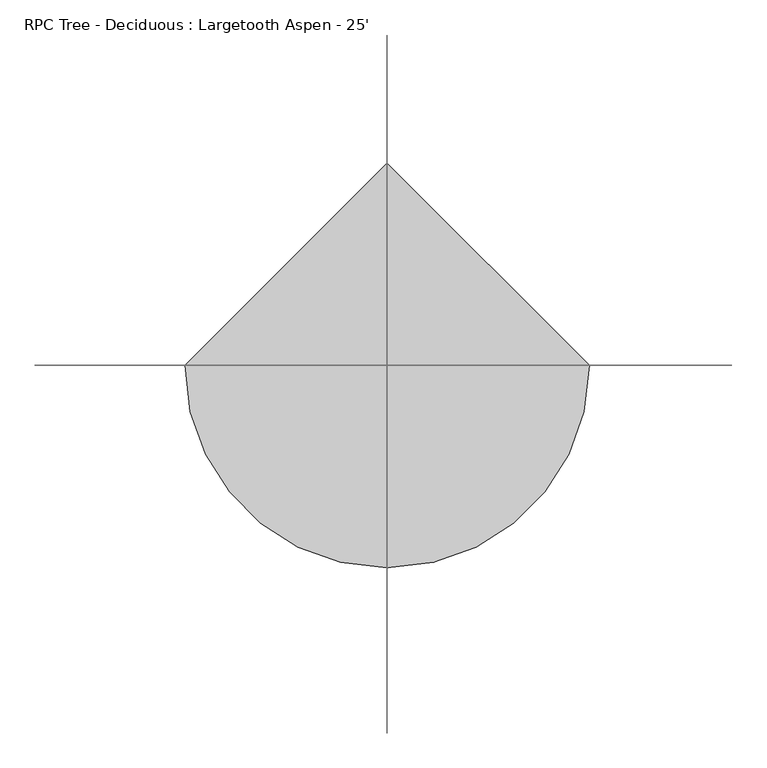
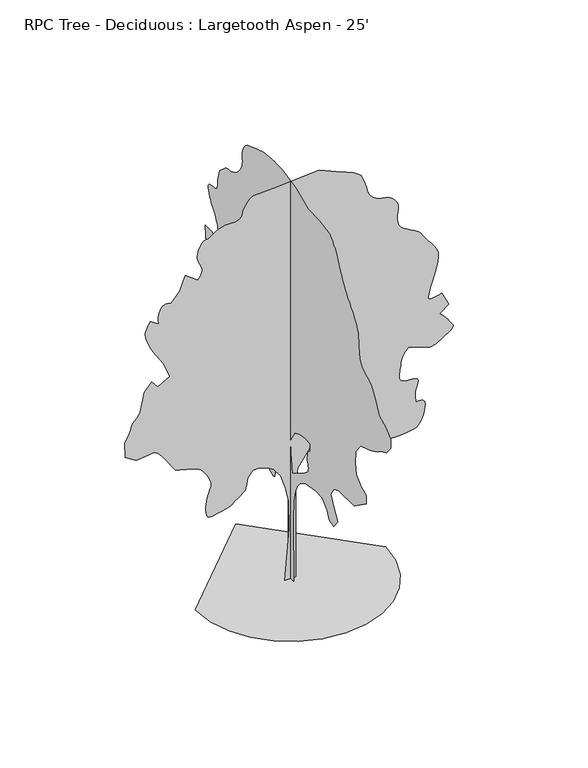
"""IFC4 building model written with IfcOpenShell, lengths in millimetres: geographic element geometry, RPC Tree - Deciduous : Largetooth Aspen - 25'."""

import ifcopenshell
import ifcopenshell.guid

model = None  # the IFC model being written
_history = None  # IfcOwnerHistory: only IFC2X3 demands one
_inside = {}  # id of a spatial element -> (the spatial element, [elements in it])
_under = {}  # id of a project, library or spatial element -> (it, [spatial elements below it])
_declared = {}  # id of a project -> (the project, [libraries it declares])
_typed = {}  # id of a type object -> (the type object, [elements of that type])
_made_of = {}  # id of a material, layer set ... -> (it, [elements and type objects made of it])


def new_model(schema):
    """Start an empty IFC model of exactly this schema.

    Asked for "IFC4X3", IfcOpenShell would pick the latest addendum, in which some entities
    have other attributes; the version numbers below select the first issue.
    IFC2X3 requires an IfcOwnerHistory on every rooted entity: one is made here for all.
    """
    global model, _history
    if schema == "IFC4X3":
        model = ifcopenshell.file(schema_version=(4, 3, 0, 0))
    else:
        model = ifcopenshell.file(schema=schema)
    _inside.clear()
    _under.clear()
    _declared.clear()
    _typed.clear()
    _made_of.clear()
    _history = None
    if model.schema == "IFC2X3":
        org = make("IfcOrganization", Name="unknown")
        user = make(
            "IfcPersonAndOrganization",
            ThePerson=make("IfcPerson", FamilyName="unknown"),
            TheOrganization=org,
        )
        app = make(
            "IfcApplication",
            ApplicationDeveloper=org,
            Version="unknown",
            ApplicationFullName="unknown",
            ApplicationIdentifier="unknown",
        )
        _history = make(
            "IfcOwnerHistory",
            OwningUser=user,
            OwningApplication=app,
            ChangeAction="ADDED",
            CreationDate=0,
        )
    return model


def make(cls, **values):
    """One entity of the class cls with the attributes given. An attribute that is None is left unset."""
    return model.create_entity(
        cls, **{name: value for name, value in values.items() if value is not None}
    )


def rooted(cls, **values):
    """An entity with a GlobalId (a new one), such as an element, a storey or a relation."""
    return make(cls, GlobalId=ifcopenshell.guid.new(), OwnerHistory=_history, **values)


def si_unit(unit_type, name, prefix=None):
    """IfcSIUnit, for example si_unit("LENGTHUNIT", "METRE", prefix="MILLI")."""
    return make("IfcSIUnit", UnitType=unit_type, Prefix=prefix, Name=name)


def assignment(units):
    """IfcUnitAssignment: the units of a project."""
    return None if units is None else make("IfcUnitAssignment", Units=units)


def point(xyz):
    """IfcCartesianPoint."""
    return None if xyz is None else make("IfcCartesianPoint", Coordinates=xyz)


def direction(xyz):
    """IfcDirection."""
    return None if xyz is None else make("IfcDirection", DirectionRatios=xyz)


def frame(location, z_axis=None, x_axis=None):
    """IfcAxis2Placement3D, a coordinate frame: its origin and axes. An axis left out is left unset."""
    return make(
        "IfcAxis2Placement3D",
        Location=point(location),
        Axis=direction(z_axis),
        RefDirection=direction(x_axis),
    )


def origin():
    """The frame at (0, 0, 0) with its axes left unset."""
    return frame((0.0, 0.0, 0.0))


def place(relative_to, where):
    """IfcLocalPlacement: puts the frame where relative to a parent placement (None: the world)."""
    return make(
        "IfcLocalPlacement", PlacementRelTo=relative_to, RelativePlacement=where
    )


def context(
    kind, dimensions, precision=None, world=None, true_north=None, identifier=None
):
    """IfcGeometricRepresentationContext, for example the 3D "Model" context."""
    return make(
        "IfcGeometricRepresentationContext",
        ContextIdentifier=identifier,
        ContextType=kind,
        CoordinateSpaceDimension=dimensions,
        Precision=precision,
        WorldCoordinateSystem=world,
        TrueNorth=true_north,
    )


def project(units=None, contexts=None):
    """IfcProject with its units and contexts."""
    return rooted(
        "IfcProject",
        Name="project",
        RepresentationContexts=contexts,
        UnitsInContext=assignment(units),
    )


def spatial(cls, under=None, at=None, **own):
    """A site, building, storey or space (cls), placed at a placement, below another one or the project."""
    s = rooted(cls, ObjectPlacement=at, **own)
    if under is not None:
        _under.setdefault(under.id(), (under, []))[1].append(s)
    return s


def point_list(points):
    """IfcCartesianPointList2D or 3D."""
    cls = (
        "IfcCartesianPointList2D" if len(points[0]) == 2 else "IfcCartesianPointList3D"
    )
    return make(cls, CoordList=points)


def triangles(points, corners, closed=None, point_numbers=None):
    """IfcTriangulatedFaceSet: each triangle names its three corners, points numbered from 1."""
    return make(
        "IfcTriangulatedFaceSet",
        Coordinates=point_list(points),
        Closed=closed,
        CoordIndex=corners,
        PnIndex=point_numbers,
    )


def shape(context_of_items, identifier, shape_type, items):
    """IfcShapeRepresentation: the items that make up one representation, for example the "Body"."""
    return make(
        "IfcShapeRepresentation",
        ContextOfItems=context_of_items,
        RepresentationIdentifier=identifier,
        RepresentationType=shape_type,
        Items=items,
    )


def source(mapping_origin, context_of_items, identifier, shape_type, items):
    """IfcRepresentationMap: a shape defined once, which mapped items show again and again."""
    return make(
        "IfcRepresentationMap",
        MappingOrigin=mapping_origin,
        MappedRepresentation=shape(context_of_items, identifier, shape_type, items),
    )


def transform(
    local_origin,
    x_axis=None,
    y_axis=None,
    z_axis=None,
    scale=None,
    scale2=None,
    scale3=None,
    uniform=True,
):
    """IfcCartesianTransformationOperator3D, or its non-uniform kind. x_axis, y_axis, z_axis: its Axis1, 2, 3."""
    if uniform:
        return make(
            "IfcCartesianTransformationOperator3D",
            Axis1=direction(x_axis),
            Axis2=direction(y_axis),
            LocalOrigin=point(local_origin),
            Scale=scale,
            Axis3=direction(z_axis),
        )
    return make(
        "IfcCartesianTransformationOperator3DnonUniform",
        Axis1=direction(x_axis),
        Axis2=direction(y_axis),
        LocalOrigin=point(local_origin),
        Scale=scale,
        Axis3=direction(z_axis),
        Scale2=scale2,
        Scale3=scale3,
    )


def mapped(mapping_source, mapping_target):
    """IfcMappedItem: shows the shape of a source again, moved by a transform."""
    return make(
        "IfcMappedItem", MappingSource=mapping_source, MappingTarget=mapping_target
    )


def made_of(thing, what):
    """Note that an element or type object is made of a material, layer set ...; save() writes the relation."""
    if what is not None:
        _made_of.setdefault(what.id(), (what, []))[1].append(thing)
    return thing


def element(
    cls,
    number,
    at=None,
    inside=None,
    cuts=None,
    type_object=None,
    material=None,
    context=None,
    identifier="Body",
    shape_type=None,
    held_by="IfcProductDefinitionShape",
    body=None,
    shapes=None,
    **own,
):
    """One element of the class cls, such as IfcWall. Its Tag is "e" and its number.

    at: its placement. inside: the storey or other place that contains it. cuts: it is an
    opening in that element (IfcRelVoidsElement). A single representation is given by context,
    identifier, shape_type and body (its items); several are given by shapes. held_by: the class
    of the entity that holds the representations. save() writes the other relations.
    """
    e = rooted(cls, Tag="e%d" % number, ObjectPlacement=at, **own)
    if body is not None:
        shapes = [shape(context, identifier, shape_type, body)]
    if shapes is not None:
        e.Representation = make(held_by, Representations=shapes)
    if inside is not None:
        _inside.setdefault(inside.id(), (inside, []))[1].append(e)
    if cuts is not None:
        rooted(
            "IfcRelVoidsElement", RelatingBuildingElement=cuts, RelatedOpeningElement=e
        )
    if type_object is not None:
        _typed.setdefault(type_object.id(), (type_object, []))[1].append(e)
    return made_of(e, material)


def aggregate(whole, parts):
    """IfcRelAggregates: a whole, such as a stair, and the parts it consists of."""
    return rooted("IfcRelAggregates", RelatingObject=whole, RelatedObjects=parts)


def save(model, path):
    """Write the relations noted so far, then the file.

    IfcRelAggregates (storeys below a building ...), IfcRelContainedInSpatialStructure (elements
    in a storey), IfcRelDefinesByType, IfcRelAssociatesMaterial and IfcRelDeclares: one each for
    every whole, place, type object, material and project.
    """
    for whole, parts in _under.values():
        aggregate(whole, parts)
    for where, things in _inside.values():
        rooted(
            "IfcRelContainedInSpatialStructure",
            RelatedElements=things,
            RelatingStructure=where,
        )
    for kind, things in _typed.values():
        rooted("IfcRelDefinesByType", RelatedObjects=things, RelatingType=kind)
    for what, things in _made_of.values():
        rooted("IfcRelAssociatesMaterial", RelatedObjects=things, RelatingMaterial=what)
    for by, libraries in _declared.values():
        rooted("IfcRelDeclares", RelatingContext=by, RelatedDefinitions=libraries)
    model.write(path)


def rpc_tree_deciduous_largetooth_aspen_25_f6cd7aa4(model_context):
    return source(origin(), model_context, "Body", "Tessellation", [
        triangles([(93.1061447, 0.000407, 0.0055275), (-104.1894253, 0.000407, 0.0055275), (-22.9504001, 0.0003503, 951.6658939), (-34.5559031, 0.0003185, 1485.5251682), (-92.5836657, 0.0003019, 1764.061219), (-173.8237105, 0.0002874, 2007.7790462), (-301.4849952, 0.000277, 2181.8628971), (-405.9347789, 0.0002735, 2239.8916225), (-568.4133425, 0.0002701, 2297.9204933), (-684.470866, 0.0002701, 2297.9204933), (-765.710166, 0.000277, 2181.8628971), (-800.5284622, 0.000286, 2030.9895481), (-803.4037228, 0.000287, 2013.4305908), (-808.6158319, 0.0002881, 1994.9546837), (-818.4938627, 0.0002893, 1974.6550507), (-835.3797506, 0.0002907, 1951.6121258), (-861.6001705, 0.0002923, 1924.9168076), (-899.4969126, 0.0002942, 1893.6518555), (-951.4017385, 0.0002963, 1856.9058426), (-1000.9367964, 0.0002984, 1821.7851665), (-1035.041328, 0.0003, 1794.7824543), (-1061.0280413, 0.0003013, 1774.0764507), (-1086.2019407, 0.0003023, 1757.8357269), (-1117.8706472, 0.0003031, 1744.2340862), (-1163.3467958, 0.0003038, 1731.4425705), (-1229.9353912, 0.0003046, 1717.6377445), (-1303.2575146, 0.0003056, 1701.9735844), (-1364.6008633, 0.0003064, 1687.5234489), (-1414.7786144, 0.000307, 1678.356712), (-1454.6032185, 0.000307, 1678.5242889), (-1484.8875618, 0.0003062, 1692.0929375), (-1506.439444, 0.0003043, 1723.119096), (-1520.076693, 0.0003012, 1775.66647), (-1526.0305447, 0.0002975, 1838.229221), (-1525.0830734, 0.000294, 1896.7304466), (-1518.8575813, 0.0002907, 1951.3759483), (-1508.9769344, 0.0002877, 2002.3662952), (-1497.0669056, 0.0002848, 2049.9049633), (-1484.7505062, 0.0002822, 2094.1948471), (-1473.6532185, 0.0002797, 2135.4418934), (-1462.0149754, 0.0002776, 2171.5098953), (-1448.7511047, 0.0002758, 2202.2997311), (-1436.5031605, 0.000274, 2231.0600395), (-1427.9079002, 0.0002723, 2261.0397503), (-1425.6065872, 0.0002702, 2295.4845955), (-1432.2385952, 0.0002677, 2337.6435047), (-1450.4427166, 0.0002645, 2390.7649715), (-1477.2752357, 0.0002611, 2448.2171333), (-1507.353923, 0.000258, 2500.7976448), (-1539.6676483, 0.0002552, 2547.8968048), (-1573.1981598, 0.0002527, 2588.9178474), (-1606.9320019, 0.0002507, 2623.2079056), (-1639.8528122, 0.0002491, 2650.2080017), (-1670.950042, 0.0002479, 2669.3088707), (-1706.2051575, 0.000247, 2684.2184258), (-1751.2088058, 0.0002461, 2699.1535606), (-1804.330418, 0.0002453, 2714.0634064), (-1863.9491627, 0.0002444, 2728.9985413), (-1928.439703, 0.0002435, 2743.908387), (-1996.1788822, 0.0002426, 2758.8182327), (-2065.5412182, 0.0002417, 2773.7533676), (-2262.8354256, 0.0002244, 3063.8972855), (-2307.8392193, 0.0002208, 3124.7302002), (-2344.3134464, 0.0002181, 3169.7390808), (-2373.6809853, 0.0002162, 3201.539756), (-2397.3664581, 0.0002149, 3222.7742157), (-2416.7872204, 0.0002141, 3236.1091576), (-2433.3683304, 0.0002137, 3244.1609917), (-2448.5269981, 0.0002133, 3249.5711266), (-2773.4740242, 0.0002154, 3214.7732506), (-2970.7811668, 0.0002078, 3342.4334816), (-2982.3888885, 0.0001919, 3609.3616653), (-2960.1129227, 0.0001895, 3649.1127274), (-2938.5738304, 0.0001872, 3688.6606041), (-2918.4317459, 0.0001848, 3727.8273994), (-2900.4229614, 0.0001825, 3766.3590591), (-2885.2846413, 0.0001803, 3804.0779778), (-2873.6769196, 0.0001781, 3840.78097), (-2866.3363792, 0.000176, 3876.2901398), (-2854.8809738, 0.000174, 3909.843615), (-2833.1131165, 0.0001721, 3941.5934212), (-2804.8174599, 0.0001702, 3972.5051971), (-2773.8803947, 0.0001684, 4003.6457382), (-2744.1877304, 0.0001665, 4035.9798111), (-2719.5499901, 0.0001644, 4070.5745018), (-2703.8526924, 0.0001621, 4108.3951584), (-2634.2060715, 0.0001414, 4456.5779755), (-2494.950618, 0.0001324, 4607.4283607), (-2390.4982727, 0.00014, 4479.7681297), (-2169.9909473, 0.0001331, 4595.8459282), (-2286.0485435, 0.0001158, 4885.9645569), (-2471.7375, 9.85e-05, 5176.1084747), (-2494.0692764, 9.6e-05, 5217.3577011), (-2519.6494011, 9.3e-05, 5268.7673538), (-2546.0425575, 8.96e-05, 5326.2475662), (-2570.8076157, 8.6e-05, 5385.7596313), (-2591.5086777, 8.26e-05, 5443.2398438), (-2605.7325188, 7.95e-05, 5494.6494965), (-2611.0159172, 7.71e-05, 5535.8993042), (-2608.2980598, 7.5e-05, 5570.3669678), (-2600.7287544, 7.3e-05, 5604.2503647), (-2589.0701637, 7.1e-05, 5637.6006546), (-2574.1858978, 6.9e-05, 5670.544574), (-2556.863118, 6.71e-05, 5703.2088593), (-2537.9197975, 6.52e-05, 5735.6446701), (-2518.1611198, 6.32e-05, 5768.0037415), (-2367.2877708, 6.95e-05, 5663.5595352), (-2372.0934368, 6.75e-05, 5695.9697662), (-2375.8831764, 6.56e-05, 5728.8881058), (-2377.6407726, 6.35e-05, 5762.8226624), (-2376.3555313, 6.14e-05, 5798.2809631), (-2371.00891, 5.92e-05, 5835.7711166), (-2360.5873077, 5.68e-05, 5875.8018127), (-2344.077269, 5.42e-05, 5918.8799973), (-2322.4899239, 5.2e-05, 5956.5480469), (-2297.8569798, 5.05e-05, 5981.4145523), (-2270.6865452, 4.97e-05, 5995.6131042), (-2241.4867287, 4.93e-05, 6001.3028732), (-2210.7630226, 4.94e-05, 6000.5918701), (-2179.0257156, 4.97e-05, 5995.6131042), (-2146.7804455, 5.01e-05, 5988.501329), (-1995.9070965, 3.97e-05, 6162.5924469), (-1891.4573673, 2.45e-05, 6417.9129089), (-1670.950042, 3.42e-05, 6255.4298035), (-1648.8215961, 3.24e-05, 6285.3250717), (-1628.2145691, 3.06e-05, 6315.3988174), (-1610.6529957, 2.88e-05, 6345.8789337), (-1597.6609108, 2.69e-05, 6376.9683151), (-1590.7597332, 2.5e-05, 6408.8960175), (-1591.4684109, 2.31e-05, 6441.814357), (-1601.3160656, 2.1e-05, 6475.9523895), (-1617.3536041, 1.89e-05, 6510.877002), (-1634.407069, 1.68e-05, 6546.3864624), (-1650.6477928, 1.46e-05, 6583.140033), (-1664.2495789, 1.23e-05, 6621.7225616), (-1673.3859398, 9.9e-06, 6662.7183151), (-1676.2282082, 7.3e-06, 6706.761557), (-1670.950042, 4.4e-06, 6754.488295), (-1658.2957272, 1.5e-06, 6803.2306686), (-1640.7672913, -1.2e-06, 6848.9505524), (-1619.1798008, -3.6e-06, 6889.9968842), (-1594.3462875, -5.7e-06, 6924.7441818), (-1567.0742603, -7.3e-06, 6951.5663818), (-1538.1767509, -8.4e-06, 6968.8641632), (-1508.471442, -8.7e-06, 6974.9853012), (-1475.2102455, -9.2e-06, 6983.3417679), (-1435.6574272, -1.05e-05, 7004.9067307), (-1390.6206413, -1.23e-05, 7034.3706299), (-1340.9153904, -1.42e-05, 7066.4762283), (-1287.3545609, -1.59e-05, 7095.9401276), (-1230.7481323, -1.72e-05, 7117.504509), (-1171.9065931, -1.77e-05, 7125.861557), (-1111.9499331, -1.77e-05, 7125.5313446), (-1053.2124573, -1.77e-05, 7125.9882935), (-998.3307781, -1.79e-05, 7129.5188919), (-949.9463768, -1.85e-05, 7138.307309), (-910.695793, -1.94e-05, 7154.6138718), (-883.2205805, -2.1e-05, 7180.6744904), (-870.1599678, -2.32e-05, 7218.6983322), (-859.1973375, -2.62e-05, 7267.6691803), (-837.8816328, -2.94e-05, 7321.8984283), (-808.6488241, -3.27e-05, 7376.76194), (-773.9321205, -3.57e-05, 7427.5367477), (-736.1725794, -3.82e-05, 7469.5992966), (-697.8033371, -3.99e-05, 7498.2504547), (-661.2603642, -4.05e-05, 7508.8422501), (-324.6980224, -4.19e-05, 7532.0576935), (510.9103117, -4.54e-05, 7590.0965927), (928.7119898, -3.43e-05, 7404.3974625), (997.9725878, -3.27e-05, 7376.9148376), (1065.003162, -3.1e-05, 7348.7462082), (1127.5632969, -2.92e-05, 7319.1294113), (1183.4279829, -2.73e-05, 7287.4051849), (1230.3570225, -2.53e-05, 7252.8102036), (1266.1201012, -2.3e-05, 7214.6852051), (1288.4873405, -2.05e-05, 7172.2924438), (1303.3743679, -1.8e-05, 7130.6618454), (1318.0580647, -1.58e-05, 7093.7303787), (1332.3378616, -1.37e-05, 7059.0086609), (1346.0081028, -1.16e-05, 7024.0834671), (1358.8656029, -9.4e-06, 6986.5171555), (1370.7070312, -6.9e-06, 6943.8959198), (1381.3319641, -3.9e-06, 6893.7565384), (1397.2017803, -8e-07, 6841.9149353), (1423.0183731, 2e-06, 6795.9665771), (1455.9391834, 4.3e-06, 6756.1137772), (1493.1248497, 6.3e-06, 6722.5350128), (1531.7301968, 7.9e-06, 6695.4843384), (1568.915863, 9.2e-06, 6675.1134888), (1601.8392895, 1e-05, 6661.6259399), (1632.2912098, 1.04e-05, 6653.548526), (1663.5535458, 1.08e-05, 6648.1133926), (1695.0215378, 1.1e-05, 6643.6683151), (1726.0831593, 1.13e-05, 6638.6389709), (1756.1288544, 1.18e-05, 6631.3492996), (1784.5513927, 1.24e-05, 6620.2238159), (1810.7387478, 1.34e-05, 6603.6126205), (1836.0828403, 1.48e-05, 6581.0320221), (1861.4244621, 1.64e-05, 6553.8028702), (1885.3461124, 1.82e-05, 6522.9169647), (1906.4256397, 2.02e-05, 6489.3887787), (1923.2429272, 2.23e-05, 6454.2351105), (1934.3756779, 2.45e-05, 6418.4721771), (1938.4015949, 2.66e-05, 6383.0900345), (1934.8836411, 2.9e-05, 6341.7640686), (1927.3043072, 3.21e-05, 6289.6434128), (1920.1313438, 3.57e-05, 6230.2325043), (1917.8301762, 3.94e-05, 6166.9613663), (1924.8685547, 4.32e-05, 6103.2838577), (1945.7117592, 4.69e-05, 6042.6538376), (1984.8250694, 5.01e-05, 5988.501329), (2039.569693, 5.28e-05, 5943.162236), (2101.6243355, 5.51e-05, 5904.3256531), (2166.9277622, 5.72e-05, 5868.5371399), (2231.4183025, 5.94e-05, 5832.3166763), (2291.0370472, 6.18e-05, 5792.2609818), (2341.7227615, 6.46e-05, 5744.890036), (2379.4162457, 6.81e-05, 5686.7749786), (2417.9887459, 7.19e-05, 5621.9795151), (2469.1466698, 7.58e-05, 5556.3713104), (2525.585376, 7.98e-05, 5489.1376236), (2580.0024033, 8.4e-05, 5419.4657135), (2625.0618622, 8.83e-05, 5346.5422577), (2653.4845459, 9.29e-05, 5269.5800949), (2657.9549126, 9.78e-05, 5187.7164871), (2641.5719009, 0.0001035, 5093.1519104), (2615.0543335, 0.00011, 4983.9574127), (2582.4409172, 0.0001169, 4868.2862755), (2547.7697777, 0.0001237, 4754.2147499), (2515.1639191, 0.0001299, 4649.8972801), (2488.6361778, 0.000135, 4563.4609863), (2472.2607239, 0.0001386, 4502.9835732), (2471.4479828, 0.0001408, 4466.6872421), (2487.0816216, 0.000142, 4445.6050987), (2516.4161682, 0.0001425, 4437.2230522), (2556.710511, 0.0001424, 4438.9758522), (2605.2247009, 0.0001419, 4448.3482452), (2659.2248932, 0.000141, 4462.8008514), (2715.9685226, 0.00014, 4479.7681297), (2843.6287537, 0.0001552, 4224.4476677), (2681.1706467, 0.0001628, 4096.7874367), (2705.9862831, 0.0001642, 4074.3338654), (2730.6243141, 0.0001655, 4051.3466057), (2754.8559746, 0.000167, 4027.3692902), (2778.4777885, 0.0001685, 4001.8420692), (2801.2868614, 0.0001701, 3974.3085754), (2823.0802986, 0.0001719, 3944.2351204), (2843.6287537, 0.0001739, 3911.1135956), (2865.6250854, 0.0001758, 3878.8553902), (2888.8408195, 0.0001775, 3850.6614716), (2908.8050079, 0.000179, 3824.931356), (2921.0478653, 0.0001805, 3799.9886925), (2921.1240234, 0.0001821, 3774.2329971), (2904.5378265, 0.0001837, 3746.0643677), (2866.8441971, 0.0001857, 3713.8064529), (2611.523735, 0.000196, 3539.7150444), (2507.076622, 0.0001967, 3528.1073227), (2124.0931675, 0.0001891, 3655.7675537), (2096.88727, 0.0001908, 3628.2340599), (2070.5983223, 0.0001925, 3599.5829018), (2046.1355713, 0.0001943, 3568.6964149), (2024.4110252, 0.0001964, 3534.4319366), (2006.3439594, 0.0001987, 3495.74767), (1992.8439114, 0.0002013, 3451.4500832), (1984.8250694, 0.0002043, 3400.4470917), (1979.2422707, 0.0002073, 3350.9425552), (1972.8464401, 0.0002097, 3309.9723816), (1966.2475697, 0.0002118, 3274.6916862), (1960.0550697, 0.0002138, 3242.2305862), (1954.8784962, 0.0002157, 3209.7947754), (1951.3250793, 0.0002178, 3174.4887909), (1950.0068459, 0.0002203, 3133.5186172), (1959.0060059, 0.0002226, 3094.8599304), (1982.2191238, 0.0002242, 3067.1485405), (2013.9564308, 0.0002253, 3048.55578), (2048.5358608, 0.000226, 3037.3035599), (2080.2731678, 0.0002263, 3031.5123436), (2103.4861404, 0.0002265, 3029.3787529), (2112.4854458, 0.0002265, 3029.0738297), (2125.1752235, 0.0002264, 3029.9630196), (2157.148708, 0.0002264, 3030.4202591), (2199.274625, 0.0002266, 3027.2451622), (2242.4164684, 0.0002272, 3017.1614754), (2277.4354065, 0.0002284, 2996.942942), (2295.2001652, 0.0002304, 2963.2880196), (2286.5717674, 0.0002334, 2913.021611), (2265.7615551, 0.0002368, 2855.3635025), (2252.261507, 0.0002401, 2801.3633102), (2244.8497501, 0.0002431, 2750.4108971), (2242.3122597, 0.000246, 2701.871418), (2243.429924, 0.0002488, 2655.1864769), (2246.9833408, 0.0002515, 2609.7203568), (2251.7533985, 0.0002541, 2564.8385033), (2291.2047695, 0.0002539, 2569.2835808), (2328.629084, 0.0002538, 2570.4774033), (2361.9894024, 0.0002541, 2565.1434265), (2389.2612843, 0.000255, 2550.1065536), (2408.4128769, 0.0002567, 2522.0472198), (2417.4120369, 0.0002593, 2477.7574814), (2414.2319984, 0.0002631, 2413.9754734), (2401.476091, 0.0002675, 2341.0953289), (2383.2389774, 0.0002716, 2272.8811787), (2359.7236977, 0.0002752, 2211.166777), (2331.1309662, 0.0002784, 2157.7735245), (2297.6690552, 0.000281, 2114.5300884), (2259.536063, 0.0002829, 2083.2677525), (2216.9377911, 0.0002839, 2065.807917), (2176.9759861, 0.0002844, 2057.1795193), (2143.1075592, 0.0002848, 2050.7838341), (2110.049548, 0.0002851, 2046.0136311), (2072.5261116, 0.0002853, 2042.257029), (2025.2567585, 0.0002855, 2038.9092682), (1962.9659386, 0.0002857, 2035.3558514), (1880.3728695, 0.000286, 2030.9895481), (1790.6068371, 0.0002859, 2032.4449825), (1709.3674644, 0.0002851, 2045.4726757), (1635.2326, 0.0002838, 2068.1420769), (1566.7847431, 0.0002819, 2098.5255421), (1502.5989807, 0.0002798, 2134.6977528), (1441.2554867, 0.0002774, 2174.7255421), (1381.3319641, 0.0002749, 2216.6811207), (1126.0062698, 0.0002604, 2460.3989479), (859.0779408, 0.0002535, 2576.4465157), (545.7260645, 0.0002548, 2553.2563614), (394.8527518, 0.0002618, 2437.1885914), (290.4029863, 0.0002708, 2286.3152424), (127.9229058, 0.0002846, 2054.2026661), (93.1061447, 0.0003019, 1764.061219), (93.1061447, 0.0003392, 1137.3575392), (-0.0023708, 90.8437737, 1.11e-05), (-0.0023708, -94.8460457, 0.0), (-0.0023708, -83.2405405, 1160.5629541), (-0.0023708, -94.8460457, 1531.9435558), (-0.0023708, -141.2688208, 1729.2379086), (-0.0023708, -210.9025882, 1880.1112576), (-0.0023708, -303.7481383, 1996.1687084), (-0.0023708, -443.0162001, 2077.4080811), (-0.0023708, -559.0712165, 2100.6185829), (-0.0023708, -791.1838291, 2147.0420574), (-0.0023708, -988.4806526, 2135.4368065), (-0.0023708, -1139.3539289, 1984.5634575), (-0.0023708, -1208.987978, 1845.2955048), (-0.0023708, -1336.648209, 1798.8718849), (-0.0023708, -1475.9163071, 1972.9557358), (-0.0023708, -1325.0429581, 2205.0707829), (-0.0023708, -1255.4089817, 2367.5493828), (-0.0023708, -1336.648209, 2506.8150101), (-0.0023708, -1487.521558, 2576.4465157), (-0.0023708, -1974.9572124, 2576.4465157), (-0.0023708, -2357.9431377, 2843.3746994), (-0.0023708, -2357.9431377, 3005.8583862), (-0.0023708, -2195.4645378, 3075.479718), (-0.0023708, -2044.5913342, 3214.7476707), (-0.0023708, -2009.7755814, 3412.0548134), (-0.0023708, -2032.9860832, 3644.159832), (-0.0023708, -2183.8592869, 3841.466684), (-0.0023708, -2450.787616, 3934.3037498), (-0.0023708, -2495.4866318, 3951.778846), (-0.0023708, -2539.7763702, 3969.5332855), (-0.0023708, -2583.2536583, 3987.8975716), (-0.0023708, -2625.5191017, 4007.2016258), (-0.0023708, -2666.159063, 4027.6995026), (-0.0023708, -2704.7671715, 4049.7211235), (-0.0023708, -2740.9367661, 4073.5717026), (-0.0023708, -2775.734642, 4097.0920692), (-0.0023708, -2810.5580978, 4118.1742126), (-0.0023708, -2845.381263, 4137.223922), (-0.0023708, -2880.2047188, 4154.6484398), (-0.0023708, -2915.0025948, 4170.8535553), (-0.0023708, -2949.8260506, 4186.2459297), (-0.0023708, -2984.6495064, 4201.2319336), (-0.0023708, -3112.3097374, 4363.7156204), (-0.0023708, -3112.3097374, 4526.1993073), (-0.0023708, -2961.4337723, 4665.46726), (-0.0023708, -2764.1522095, 4769.9120476), (-0.0023708, -2636.4666893, 5013.6247879), (-0.0023708, -2508.8189575, 5199.3239182), (-0.0023708, -2230.2829067, 5350.1995926), (-0.0023708, -2149.0435341, 5477.860405), (-0.0023708, -2125.8305614, 5733.180867), (-0.0023708, -2102.6200596, 5942.0698608), (-0.0023708, -2077.7179459, 5994.1655182), (-0.0023708, -2052.6126469, 6045.3211166), (-0.0023708, -2027.0983612, 6094.647757), (-0.0023708, -2000.9769905, 6141.2315414), (-0.0023708, -1974.0453495, 6184.1824081), (-0.0023708, -1946.0953114, 6222.5364624), (-0.0023708, -1916.9309578, 6255.4298035), (-0.0023708, -1880.7588924, 6294.3169647), (-0.0023708, -1835.0490372, 6347.6061539), (-0.0023708, -1784.4624447, 6409.8360764), (-0.0023708, -1733.6777538, 6475.4948593), (-0.0023708, -1687.355872, 6539.1473694), (-0.0023708, -1650.170351, 6595.2811523), (-0.0023708, -1626.7896561, 6638.4104965), (-0.0023708, -1609.9062389, 6674.6559586), (-0.0023708, -1589.7741829, 6713.7465958), (-0.0023708, -1567.4070889, 6755.6568283), (-0.0023708, -1543.8256794, 6800.4366531), (-0.0023708, -1520.0386139, 6848.0360733), (-0.0023708, -1497.0642895, 6898.4806686), (-0.0023708, -1475.9163071, 6951.7698578), (-0.0023708, -1452.6372047, 7005.1352051), (-0.0023708, -1423.2671951, 7056.0623291), (-0.0023708, -1388.8223499, 7104.957019), (-0.0023708, -1350.3185955, 7152.2262268), (-0.0023708, -1308.7667713, 7198.2763229), (-0.0023708, -1265.188036, 7243.513678), (-0.0023708, -1220.5932289, 7288.3446625), (-0.0023708, -895.6335583, 7346.3585632), (-0.0023708, -547.4659656, 7357.9659943), (-0.0023708, -176.0855819, 7520.4496811), (-0.0023708, 264.9268161, 7613.2870377), (-0.0023708, 324.5456334, 7615.7252609), (-0.0023708, 383.7580439, 7617.8588516), (-0.0023708, 442.1602203, 7619.3825958), (-0.0023708, 499.3406327, 7619.9924423), (-0.0023708, 554.9005408, 7619.3825958), (-0.0023708, 608.4284509, 7617.2490051), (-0.0023708, 659.5204994, 7613.2870377), (-0.0023708, 708.649114, 7608.2065338), (-0.0023708, 756.9649876, 7602.5423447), (-0.0023708, 805.0801466, 7595.6340454), (-0.0023708, 853.6016762, 7586.8962067), (-0.0023708, 903.136734, 7575.7457245), (-0.0023708, 954.2948032, 7561.5215927), (-0.0023708, 1007.6881285, 7543.6657059), (-0.0023708, 1344.2529774, 7427.6129059), (-0.0023708, 1373.9607571, 7402.5429245), (-0.0023708, 1402.8557957, 7376.228833), (-0.0023708, 1430.1278229, 7347.5015167), (-0.0023708, 1454.9613361, 7315.141864), (-0.0023708, 1476.5488266, 7277.8801849), (-0.0023708, 1494.0772625, 7234.5479462), (-0.0023708, 1506.7315773, 7183.8748764), (-0.0023708, 1511.0952644, 7135.4627151), (-0.0023708, 1507.5418476, 7096.3970764), (-0.0023708, 1500.9454479, 7061.7770966), (-0.0023708, 1496.1727741, 7026.7507462), (-0.0023708, 1498.1031796, 6986.4659958), (-0.0023708, 1511.6032276, 6935.996402), (-0.0023708, 1541.5473301, 6870.5405136), (-0.0023708, 1582.5555828, 6804.0434097), (-0.0023708, 1625.189463, 6752.1768082), (-0.0023708, 1668.2270977, 6712.4769058), (-0.0023708, 1710.4546074, 6682.5298965), (-0.0023708, 1750.6525898, 6659.8987198), (-0.0023708, 1787.5994625, 6642.1439896), (-0.0023708, 1820.0833809, 6626.8024841), (-0.0023708, 1849.9258907, 6615.6775818), (-0.0023708, 1879.7682552, 6610.2418671), (-0.0023708, 1909.6107651, 6607.6257477), (-0.0023708, 1939.4557457, 6605.0346268), (-0.0023708, 1969.2981102, 6599.5739136), (-0.0023708, 1999.14062, 6588.4484299), (-0.0023708, 2028.9829845, 6568.7891647), (-0.0023708, 2203.0693062, 6417.9129089), (-0.0023708, 2272.7008118, 6197.4159027), (-0.0023708, 2270.435107, 6162.7197647), (-0.0023708, 2269.4877811, 6128.8613663), (-0.0023708, 2271.179393, 6096.6034515), (-0.0023708, 2276.8307922, 6066.8093399), (-0.0023708, 2287.7578869, 6040.2411942), (-0.0023708, 2305.2864681, 6017.7367538), (-0.0023708, 2330.7295372, 6000.1087601), (-0.0023708, 2366.121999, 5990.0250732), (-0.0023708, 2409.2282341, 5986.2404205), (-0.0023708, 2454.9736977, 5983.6754608), (-0.0023708, 2498.2855888, 5977.2491089), (-0.0023708, 2534.0819504, 5961.8820236), (-0.0023708, 2557.2947777, 5932.4942825), (-0.0023708, 2562.8319397, 5884.0565414), (-0.0023708, 2554.1452606, 5827.7448624), (-0.0023708, 2538.7528862, 5777.5287415), (-0.0023708, 2517.7724808, 5732.3931244), (-0.0023708, 2492.3292664, 5691.3217941), (-0.0023708, 2463.5359657, 5653.2979523), (-0.0023708, 2432.5073364, 5617.3059631), (-0.0023708, 2400.3636589, 5582.3046112), (-0.0023708, 2375.59613, 5540.0391678), (-0.0023708, 2351.4381569, 5497.9004608), (-0.0023708, 2328.49697, 5455.9402313), (-0.0023708, 2307.3844505, 5414.284053), (-0.0023708, 2288.7053581, 5373.0342453), (-0.0023708, 2273.0741901, 5332.2931274), (-0.0023708, 2261.0955608, 5292.1606934), (-0.0023708, 2254.8700687, 5254.4164856), (-0.0023708, 2255.3450397, 5220.3046143), (-0.0023708, 2261.4003387, 5189.2402313), (-0.0023708, 2271.9235336, 5160.614653), (-0.0023708, 2285.7971054, 5133.8174515), (-0.0023708, 2301.9032444, 5108.2399429), (-0.0023708, 2319.1244316, 5083.2716995), (-0.0023708, 2469.9977806, 5106.4871429), (-0.0023708, 2655.6942947, 5106.4871429), (-0.0023708, 2632.4788513, 4769.9120476), (-0.0023708, 2423.5741608, 4410.1467979), (-0.0023708, 2416.0988903, 4367.9066437), (-0.0023708, 2408.5195564, 4325.9967018), (-0.0023708, 2400.7370373, 4284.6710266), (-0.0023708, 2392.6495949, 4244.2848289), (-0.0023708, 2384.1559273, 4205.0927444), (-0.0023708, 2375.1567673, 4167.4246948), (-0.0023708, 2365.5479061, 4131.6106018), (-0.0023708, 2351.1663712, 4092.901046), (-0.0023708, 2330.0869892, 4047.8924561), (-0.0023708, 2305.5556377, 3998.8448685), (-0.0023708, 2280.8237171, 3947.9433243), (-0.0023708, 2259.134634, 3897.4737305), (-0.0023708, 2243.7397888, 3849.620256), (-0.0023708, 2237.885059, 3806.6435188), (-0.0023708, 2242.6221245, 3768.5435188), (-0.0023708, 2255.8859951, 3733.4915886), (-0.0023708, 2276.2542286, 3700.9796196), (-0.0023708, 2302.3069988, 3670.4995033), (-0.0023708, 2332.6244797, 3641.5181328), (-0.0023708, 2365.7840836, 3613.5782684), (-0.0023708, 2400.3636589, 3586.1462219), (-0.0023708, 2713.7079048, 3655.7675537), (-0.0023708, 2731.0053955, 3606.110701), (-0.0023708, 2747.5915924, 3556.834639), (-0.0023708, 2762.7552017, 3508.3968979), (-0.0023708, 2775.7599312, 3461.1529793), (-0.0023708, 2785.945356, 3415.5345428), (-0.0023708, 2792.5748932, 3371.9482498), (-0.0023708, 2794.9625381, 3330.8257599), (-0.0023708, 2781.5002785, 3291.6333847), (-0.0023708, 2746.9055878, 3253.2540413), (-0.0023708, 2699.9410126, 3215.103463), (-0.0023708, 2649.3188118, 3176.5209343), (-0.0023708, 2603.7768242, 3136.9477684), (-0.0023708, 2572.0523071, 3095.7235405), (-0.0023708, 2562.8319397, 3052.2895638), (-0.0023708, 2571.1886971, 3010.557518), (-0.0023708, 2585.6413033, 2974.3117653), (-0.0023708, 2605.1738319, 2942.6631157), (-0.0023708, 2628.7450676, 2914.6470932), (-0.0023708, 2655.3896622, 2889.3742172), (-0.0023708, 2684.0408203, 2865.9044289), (-0.0023708, 2713.7079048, 2843.3746994), (-0.0023708, 2783.3545258, 2611.2696808), (-0.0023708, 2716.5272095, 2608.9584846), (-0.0023708, 2651.6302986, 2607.7899513), (-0.0023708, 2590.5941986, 2608.8314575), (-0.0023708, 2535.3339088, 2613.225666), (-0.0023708, 2487.7955315, 2622.0902412), (-0.0023708, 2449.8987167, 2636.5428474), (-0.0023708, 2423.5741608, 2657.7008583), (-0.0023708, 2398.2655312, 2683.9137932), (-0.0023708, 2363.2136009, 2712.5649513), (-0.0023708, 2320.0387653, 2743.2479622), (-0.0023708, 2270.3665066, 2775.5823257), (-0.0023708, 2215.8225975, 2809.1102211), (-0.0023708, 2158.0326656, 2843.4508575), (-0.0023708, 2098.6169609, 2878.1981552), (-0.0023708, 2096.1482162, 2840.8347382), (-0.0023708, 2093.7783028, 2803.1919777), (-0.0023708, 2091.6141907, 2764.9143723), (-0.0023708, 2089.7523857, 2725.7219971), (-0.0023708, 2088.2969513, 2685.3360901), (-0.0023708, 2087.3496254, 2643.4008591), (-0.0023708, 2087.01171, 2599.6619591), (-0.0023708, 2085.4216908, 2554.0943916), (-0.0023708, 2079.9734768, 2509.3195084), (-0.0023708, 2069.6534672, 2469.0222588), (-0.0023708, 2053.4457355, 2436.8431183), (-0.0023708, 2030.3368263, 2416.4418926), (-0.0023708, 1999.3108131, 2411.4660336), (-0.0023708, 1959.3490082, 2425.5756374), (-0.0023708, 1914.2462379, 2451.7986008), (-0.0023708, 1868.5363827, 2480.4573166), (-0.0023708, 1822.3160934, 2511.1455597), (-0.0023708, 1775.6894337, 2543.4517273), (-0.0023708, 1728.7603214, 2576.9799133), (-0.0023708, 1681.6281693, 2611.3461296), (-0.0023708, 1634.3918083, 2646.0931366), (-0.0023708, 1355.8582283, 2727.3221901), (-0.0023708, 1077.3221775, 2634.4854149), (-0.0023708, 903.2383266, 2425.5756374), (-0.0023708, 925.671623, 2395.8678577), (-0.0023708, 948.4096247, 2366.9728191), (-0.0023708, 971.754784, 2339.7009373), (-0.0023708, 996.0142771, 2314.8672787), (-0.0023708, 1021.4930271, 2293.2799335), (-0.0023708, 1048.4931959, 2275.7513523), (-0.0023708, 1077.3221775, 2263.0970375), (-0.0023708, 1104.7973173, 2250.7806381), (-0.0023708, 1128.0078192, 2234.2021442), (-0.0023708, 1147.667375, 2214.0700882), (-0.0023708, 1164.4821917, 2191.0957638), (-0.0023708, 1179.1684319, 2165.9904648), (-0.0023708, 1192.4323025, 2139.4627235), (-0.0023708, 1204.984952, 2112.2238338), (-0.0023708, 1172.5694887, 2104.7129551), (-0.0023708, 1139.6486057, 2096.8974438), (-0.0023708, 1105.7091803, 2088.4722313), (-0.0023708, 1070.2508068, 2079.1326851), (-0.0023708, 1032.7604353, 2068.576498), (-0.0023708, 992.7325733, 2056.4962761), (-0.0023708, 949.6593304, 2042.5897121), (-0.0023708, 906.5885582, 2025.6403107), (-0.0023708, 866.5607689, 2005.0332836), (-0.0023708, 829.0703974, 1981.383419), (-0.0023708, 793.6094805, 1955.2951859), (-0.0023708, 759.6725985, 1927.3806107), (-0.0023708, 726.7517155, 1898.2467785), (-0.0023708, 694.3362522, 1868.5060066), (-0.0023708, 694.3362522, 1706.0274067), (-0.0023708, 652.3120005, 1679.1287579), (-0.0023708, 611.8117109, 1654.968314), (-0.0023708, 574.3543679, 1636.2916924), (-0.0023708, 541.4665134, 1625.8370979), (-0.0023708, 514.6695299, 1626.3450611), (-0.0023708, 495.4849088, 1640.556403), (-0.0023708, 485.4341414, 1671.2116539), (-0.0023708, 480.5294263, 1705.9588062), (-0.0023708, 476.0285382, 1733.1976959), (-0.0023708, 472.3404639, 1756.7815762), (-0.0023708, 469.8715739, 1780.5661709), (-0.0023708, 469.025768, 1808.4147617), (-0.0023708, 470.2094167, 1844.1778404), (-0.0023708, 473.8288905, 1891.7165085), (-0.0023708, 476.7727515, 1943.7229271), (-0.0023708, 476.0615667, 1990.8550793), (-0.0023708, 472.3074354, 2033.9283222), (-0.0023708, 466.1149355, 2073.7529263), (-0.0023708, 458.0961662, 2111.1417778), (-0.0023708, 448.8581763, 2146.9074726), (-0.0023708, 439.0131741, 2181.8578102), (-0.0023708, 241.7168229, 2193.4630611), (-0.0023708, 137.2665396, 1996.1687084), (-0.0023708, 79.2382684, 1659.6039322), (-0.0023708, 79.2382684, 1230.1970032), (-0.0023708, 79.2382684, 591.8879997), (-0.0022508, -48.4240337, 2030.9844612), (-0.0022508, -2.0012081, 2402.3651356), (-0.0022508, 9.6043397, 2622.8776932), (-0.0022508, -129.6633155, 2843.3746994), (-0.0022508, -280.5376365, 2913.021611), (-0.0022508, -454.621451, 2936.2117653), (-0.0022508, -617.0999783, 2936.2117653), (-0.0022508, -617.0999783, 2796.9691017), (-0.0022508, -535.8607146, 2727.3221901), (-0.0022508, -512.6502128, 2564.8385033), (-0.0022508, -522.5282799, 2554.7295273), (-0.0022508, -532.0024836, 2543.6043343), (-0.0022508, -540.6638735, 2530.4344986), (-0.0022508, -548.1085862, 2514.226767), (-0.0022508, -553.9277441, 2493.9573647), (-0.0022508, -557.717411, 2468.6158882), (-0.0022508, -559.0712165, 2437.1808884), (-0.0022508, -555.6879564, 2404.7324329), (-0.0022508, -546.2137527, 2376.5486881), (-0.0022508, -531.6646408, 2351.915744), (-0.0022508, -513.0540762, 2330.1250683), (-0.0022508, -491.4006014, 2310.4679832), (-0.0022508, -467.7151285, 2292.2308697), (-0.0022508, -443.0162001, 2274.7022884), (-1711.8591728, 0.0, 0.0031267), (-1666.6040863, -392.2441901, 0.0031033), (-1537.7144245, -752.4590126, 0.0030819), (-1335.5154293, -1070.3218781, 0.0030629), (-1070.3218781, -1335.5154293, 0.0030471), (-752.4590126, -1537.7144245, 0.0030351), (-392.2441901, -1666.6040863, 0.0030274), (7.5e-05, -1711.8591728, 0.0030247), (392.2441901, -1666.6040863, 0.0030274), (752.4590126, -1537.7144245, 0.0030351), (1070.3218781, -1335.5154293, 0.0030471), (1335.5154293, -1070.3218781, 0.0030629), (1537.7144245, -752.4590126, 0.0030819), (1666.6040863, -392.2441901, 0.0031033), (1711.8591728, 0.0001497, 0.0031267), (-0.0002251, 1711.8591728, 0.0032287)], [[122, 123, 124], [87, 88, 89], [1, 2, 3], [329, 1, 3], [329, 3, 4], [328, 329, 4], [328, 4, 5], [105, 106, 107], [327, 328, 5], [327, 5, 6], [104, 105, 107], [238, 239, 240], [238, 240, 241], [237, 238, 241], [236, 237, 241], [103, 104, 107], [86, 87, 89], [235, 236, 241], [102, 103, 107], [101, 102, 107], [100, 101, 107], [99, 100, 107], [98, 99, 107], [97, 98, 107], [96, 97, 107], [327, 6, 7], [326, 327, 7], [95, 96, 107], [70, 71, 72], [69, 70, 72], [69, 72, 73], [69, 73, 74], [69, 74, 75], [69, 75, 76], [69, 76, 77], [69, 77, 78], [94, 95, 107], [234, 235, 241], [93, 94, 107], [69, 78, 79], [69, 79, 80], [69, 80, 81], [69, 81, 82], [69, 82, 83], [69, 83, 84], [69, 84, 85], [68, 69, 85], [325, 326, 7], [325, 7, 8], [67, 68, 85], [92, 93, 107], [91, 92, 107], [60, 61, 62], [67, 85, 86], [67, 86, 89], [67, 89, 90], [66, 67, 90], [65, 66, 90], [64, 65, 90], [63, 64, 90], [62, 63, 90], [60, 62, 90], [59, 60, 90], [58, 59, 90], [57, 58, 90], [56, 57, 90], [55, 56, 90], [54, 55, 90], [53, 54, 90], [284, 285, 286], [283, 284, 286], [282, 283, 286], [282, 286, 287], [281, 282, 287], [280, 281, 287], [279, 280, 287], [279, 287, 288], [278, 279, 288], [277, 278, 288], [277, 288, 289], [276, 277, 289], [275, 276, 289], [275, 289, 290], [52, 53, 90], [325, 8, 9], [121, 122, 124], [275, 290, 291], [30, 31, 32], [29, 30, 32], [29, 32, 33], [28, 29, 33], [28, 33, 34], [27, 28, 34], [27, 34, 35], [27, 35, 36], [26, 27, 36], [26, 36, 37], [26, 37, 38], [25, 26, 38], [25, 38, 39], [24, 25, 39], [23, 24, 39], [22, 23, 39], [21, 22, 39], [20, 21, 39], [20, 39, 40], [20, 40, 41], [20, 41, 42], [19, 20, 42], [19, 42, 43], [18, 19, 43], [18, 43, 44], [17, 18, 44], [16, 17, 44], [15, 16, 44], [14, 15, 44], [13, 14, 44], [12, 13, 44], [11, 12, 44], [11, 44, 45], [11, 45, 46], [10, 11, 46], [10, 46, 47], [10, 47, 48], [10, 48, 49], [10, 49, 50], [10, 50, 51], [252, 253, 254], [251, 252, 254], [251, 254, 255], [250, 251, 255], [249, 250, 255], [249, 255, 256], [248, 249, 256], [247, 248, 256], [246, 247, 256], [245, 246, 256], [245, 256, 257], [245, 257, 258], [244, 245, 258], [243, 244, 258], [242, 243, 258], [241, 242, 258], [234, 241, 258], [233, 234, 258], [274, 275, 291], [324, 325, 9], [51, 52, 90], [10, 51, 90], [9, 10, 90], [324, 9, 90], [323, 324, 90], [323, 90, 91], [323, 91, 107], [323, 107, 108], [323, 108, 109], [323, 109, 110], [323, 110, 111], [323, 111, 112], [323, 112, 113], [323, 113, 114], [323, 114, 115], [323, 115, 116], [323, 116, 117], [323, 117, 118], [323, 118, 119], [323, 119, 120], [323, 120, 121], [323, 121, 124], [323, 124, 125], [323, 125, 126], [323, 126, 127], [323, 127, 128], [323, 128, 129], [322, 323, 129], [322, 129, 130], [167, 168, 169], [274, 291, 292], [296, 297, 298], [296, 298, 299], [295, 296, 299], [294, 295, 299], [294, 299, 300], [293, 294, 300], [293, 300, 301], [293, 301, 302], [293, 302, 303], [293, 303, 304], [293, 304, 305], [293, 305, 306], [293, 306, 307], [293, 307, 308], [293, 308, 309], [293, 309, 310], [293, 310, 311], [293, 311, 312], [293, 312, 313], [293, 313, 314], [293, 314, 315], [293, 315, 316], [293, 316, 317], [293, 317, 318], [293, 318, 319], [292, 293, 319], [274, 292, 319], [274, 319, 320], [274, 320, 321], [274, 321, 322], [273, 274, 322], [273, 322, 130], [272, 273, 130], [271, 272, 130], [270, 271, 130], [269, 270, 130], [268, 269, 130], [267, 268, 130], [266, 267, 130], [265, 266, 130], [264, 265, 130], [263, 264, 130], [262, 263, 130], [261, 262, 130], [260, 261, 130], [259, 260, 130], [258, 259, 130], [233, 258, 130], [232, 233, 130], [231, 232, 130], [230, 231, 130], [229, 230, 130], [228, 229, 130], [227, 228, 130], [226, 227, 130], [225, 226, 130], [224, 225, 130], [223, 224, 130], [222, 223, 130], [221, 222, 130], [220, 221, 130], [219, 220, 130], [218, 219, 130], [217, 218, 130], [216, 217, 130], [215, 216, 130], [214, 215, 130], [213, 214, 130], [212, 213, 130], [211, 212, 130], [210, 211, 130], [209, 210, 130], [208, 209, 130], [207, 208, 130], [206, 207, 130], [205, 206, 130], [204, 205, 130], [203, 204, 130], [202, 203, 130], [201, 202, 130], [200, 201, 130], [199, 200, 130], [198, 199, 130], [197, 198, 130], [196, 197, 130], [195, 196, 130], [194, 195, 130], [193, 194, 130], [192, 193, 130], [191, 192, 130], [190, 191, 130], [189, 190, 130], [188, 189, 130], [187, 188, 130], [186, 187, 130], [185, 186, 130], [184, 185, 130], [183, 184, 130], [182, 183, 130], [181, 182, 130], [180, 181, 130], [179, 180, 130], [178, 179, 130], [177, 178, 130], [176, 177, 130], [175, 176, 130], [174, 175, 130], [173, 174, 130], [172, 173, 130], [171, 172, 130], [170, 171, 130], [169, 170, 130], [167, 169, 130], [167, 130, 131], [167, 131, 132], [167, 132, 133], [167, 133, 134], [167, 134, 135], [167, 135, 136], [164, 165, 166], [164, 166, 167], [163, 164, 167], [162, 163, 167], [161, 162, 167], [160, 161, 167], [159, 160, 167], [158, 159, 167], [143, 144, 145], [142, 143, 145], [141, 142, 145], [140, 141, 145], [140, 145, 146], [139, 140, 146], [138, 139, 146], [137, 138, 146], [136, 137, 146], [136, 146, 147], [136, 147, 148], [136, 148, 149], [136, 149, 150], [136, 150, 151], [136, 151, 152], [136, 152, 153], [136, 153, 154], [136, 154, 155], [136, 155, 156], [157, 158, 167], [157, 167, 136], [157, 136, 156], [634, 330, 635], [633, 634, 635], [632, 633, 635], [631, 632, 635], [540, 541, 542], [592, 593, 594], [494, 495, 496], [635, 330, 331], [635, 331, 332], [635, 332, 333], [635, 333, 334], [635, 334, 335], [658, 635, 335], [658, 335, 336], [658, 336, 337], [658, 337, 338], [540, 542, 543], [657, 658, 338], [631, 635, 636], [630, 631, 636], [518, 519, 520], [656, 657, 338], [656, 338, 339], [655, 656, 339], [654, 655, 339], [653, 654, 339], [540, 543, 544], [539, 540, 544], [518, 520, 521], [539, 544, 545], [538, 539, 545], [538, 545, 546], [538, 546, 547], [538, 547, 548], [537, 538, 548], [537, 548, 549], [536, 537, 549], [536, 549, 550], [536, 550, 551], [535, 536, 551], [535, 551, 552], [534, 535, 552], [493, 494, 496], [493, 496, 497], [343, 344, 345], [342, 343, 345], [341, 342, 345], [340, 341, 345], [340, 345, 346], [534, 552, 553], [533, 534, 553], [518, 521, 522], [350, 351, 352], [349, 350, 352], [349, 352, 353], [348, 349, 353], [533, 553, 554], [652, 653, 339], [518, 522, 523], [518, 523, 524], [533, 554, 555], [532, 533, 555], [518, 524, 525], [518, 525, 526], [518, 526, 527], [518, 527, 528], [518, 528, 529], [518, 529, 530], [518, 530, 531], [518, 531, 532], [518, 532, 555], [517, 518, 555], [516, 517, 555], [515, 516, 555], [607, 608, 609], [591, 592, 594], [591, 594, 595], [590, 591, 595], [590, 595, 596], [589, 590, 596], [588, 589, 596], [588, 596, 597], [587, 588, 597], [586, 587, 597], [586, 597, 598], [585, 586, 598], [585, 598, 599], [584, 585, 599], [584, 599, 600], [583, 584, 600], [583, 600, 601], [582, 583, 601], [514, 515, 555], [643, 644, 645], [630, 636, 637], [629, 630, 637], [581, 582, 601], [581, 601, 602], [348, 353, 354], [580, 581, 602], [580, 602, 603], [579, 580, 603], [651, 652, 339], [651, 339, 340], [651, 340, 346], [650, 651, 346], [649, 650, 346], [649, 346, 347], [648, 649, 347], [647, 648, 347], [646, 647, 347], [372, 373, 374], [371, 372, 374], [370, 371, 374], [369, 370, 374], [369, 374, 375], [368, 369, 375], [367, 368, 375], [366, 367, 375], [365, 366, 375], [364, 365, 375], [363, 364, 375], [362, 363, 375], [361, 362, 375], [360, 361, 375], [359, 360, 375], [358, 359, 375], [357, 358, 375], [356, 357, 375], [356, 375, 376], [356, 376, 377], [356, 377, 378], [645, 646, 347], [643, 645, 347], [642, 643, 347], [641, 642, 347], [641, 347, 348], [641, 348, 354], [641, 354, 355], [607, 609, 610], [513, 514, 555], [579, 603, 604], [607, 610, 611], [607, 611, 612], [607, 612, 613], [607, 613, 614], [607, 614, 615], [607, 615, 616], [607, 616, 617], [607, 617, 618], [607, 618, 619], [607, 619, 620], [607, 620, 621], [607, 621, 622], [607, 622, 623], [607, 623, 624], [606, 607, 624], [606, 624, 625], [605, 606, 625], [605, 625, 626], [604, 605, 626], [579, 604, 626], [579, 626, 627], [579, 627, 628], [579, 628, 629], [579, 629, 637], [578, 579, 637], [578, 637, 638], [355, 356, 378], [641, 355, 378], [641, 378, 379], [640, 641, 379], [639, 640, 379], [639, 379, 380], [639, 380, 381], [639, 381, 382], [639, 382, 383], [639, 383, 384], [639, 384, 385], [639, 385, 386], [639, 386, 387], [639, 387, 388], [639, 388, 389], [639, 389, 390], [639, 390, 391], [639, 391, 392], [639, 392, 393], [639, 393, 394], [639, 394, 395], [638, 639, 395], [578, 638, 395], [577, 578, 395], [577, 395, 396], [577, 396, 397], [577, 397, 398], [577, 398, 399], [577, 399, 400], [577, 400, 401], [577, 401, 402], [577, 402, 403], [577, 403, 404], [577, 404, 405], [577, 405, 406], [577, 406, 407], [577, 407, 408], [577, 408, 409], [577, 409, 410], [577, 410, 411], [577, 411, 412], [577, 412, 413], [577, 413, 414], [577, 414, 415], [577, 415, 416], [577, 416, 417], [577, 417, 418], [577, 418, 419], [577, 419, 420], [577, 420, 421], [577, 421, 422], [577, 422, 423], [577, 423, 424], [577, 424, 425], [577, 425, 426], [577, 426, 427], [577, 427, 428], [577, 428, 429], [577, 429, 430], [577, 430, 431], [577, 431, 432], [577, 432, 433], [577, 433, 434], [566, 567, 568], [566, 568, 569], [565, 566, 569], [564, 565, 569], [564, 569, 570], [563, 564, 570], [563, 570, 571], [562, 563, 571], [562, 571, 572], [561, 562, 572], [560, 561, 572], [560, 572, 573], [559, 560, 573], [559, 573, 574], [558, 559, 574], [558, 574, 575], [557, 558, 575], [556, 557, 575], [556, 575, 576], [555, 556, 576], [513, 555, 576], [513, 576, 577], [512, 513, 577], [511, 512, 577], [470, 471, 472], [469, 470, 472], [468, 469, 472], [468, 472, 473], [467, 468, 473], [467, 473, 474], [467, 474, 475], [466, 467, 475], [466, 475, 476], [466, 476, 477], [465, 466, 477], [465, 477, 478], [465, 478, 479], [464, 465, 479], [464, 479, 480], [464, 480, 481], [464, 481, 482], [463, 464, 482], [456, 457, 458], [456, 458, 459], [456, 459, 460], [510, 511, 577], [463, 482, 483], [455, 456, 460], [454, 455, 460], [453, 454, 460], [452, 453, 460], [451, 452, 460], [450, 451, 460], [450, 460, 461], [449, 450, 461], [449, 461, 462], [463, 483, 484], [492, 493, 497], [448, 449, 462], [447, 448, 462], [491, 492, 497], [462, 463, 484], [447, 462, 484], [447, 484, 485], [446, 447, 485], [446, 485, 486], [445, 446, 486], [445, 486, 487], [444, 445, 487], [444, 487, 488], [491, 497, 498], [509, 510, 577], [491, 498, 499], [491, 499, 500], [490, 491, 500], [490, 500, 501], [490, 501, 502], [490, 502, 503], [490, 503, 504], [490, 504, 505], [490, 505, 506], [490, 506, 507], [490, 507, 508], [490, 508, 509], [490, 509, 577], [489, 490, 577], [488, 489, 577], [444, 488, 577], [443, 444, 577], [442, 443, 577], [441, 442, 577], [440, 441, 577], [435, 436, 437], [434, 435, 437], [434, 437, 438], [434, 438, 439], [577, 434, 439], [440, 577, 439], [673, 674, 659], [672, 673, 659], [672, 659, 660], [671, 672, 660], [671, 660, 661], [671, 661, 662], [670, 671, 662], [669, 670, 662], [669, 662, 663], [669, 663, 664], [669, 664, 665], [669, 665, 666], [669, 666, 667], [669, 667, 668]], closed=False),
    ])


if __name__ == "__main__":
    model = new_model("IFC4")
    model_context = context("Model", 3, world=origin())
    ifc_project = project(units=[si_unit("LENGTHUNIT", "METRE", prefix="MILLI")], contexts=[model_context])
    site = spatial("IfcSite", under=ifc_project)
    building = spatial("IfcBuilding", under=site)
    placement = place(None, origin())
    rpc_tree_deciduous_largetooth_aspen_25_shape = rpc_tree_deciduous_largetooth_aspen_25_f6cd7aa4(model_context)
    element("IfcGeographicElement", 1, ObjectType="RPC Tree - Deciduous : Largetooth Aspen - 25'", at=placement, inside=building, context=model_context, shape_type="MappedRepresentation", body=[
        mapped(rpc_tree_deciduous_largetooth_aspen_25_shape, transform((0.0, 0.0, 0.0), x_axis=(1.0, 0.0, 0.0), y_axis=(0.0, 1.0, 0.0), z_axis=(0.0, 0.0, 1.0))),
    ])
    save(model, "model.ifc")
